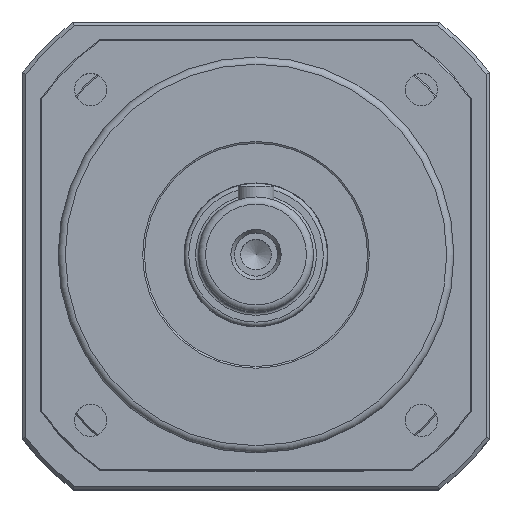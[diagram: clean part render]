
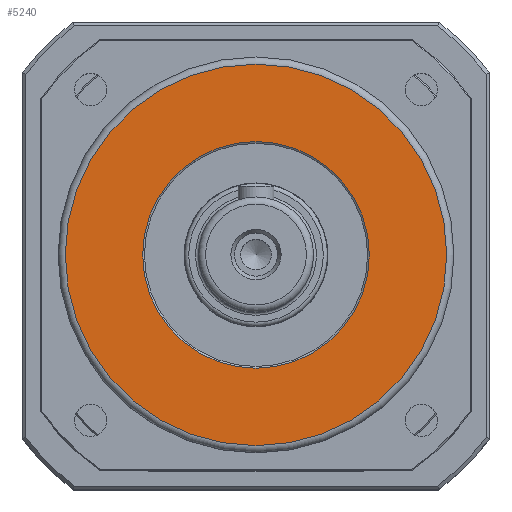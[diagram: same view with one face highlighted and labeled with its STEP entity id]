
A CAD part, top view. The second image highlights one B-rep face of the part: STEP entity #5240.
In plain terms, the highlighted planar face has unit normal (0, 0, 1).
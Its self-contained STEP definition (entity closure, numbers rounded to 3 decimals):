
#4101=CARTESIAN_POINT('',(31.5,0.,12.));
#4102=VERTEX_POINT('',#4101);
#4103=CARTESIAN_POINT('',(0.,0.0,12.));
#4104=DIRECTION('',(0.0,0.0,-1.0));
#4105=DIRECTION('',(1.0,0.0,0.0));
#4106=AXIS2_PLACEMENT_3D('',#4103,#4104,#4105);
#4107=CIRCLE('',#4106,31.5);
#4108=EDGE_CURVE('',#4102,#4102,#4107,.T.);
#4129=CARTESIAN_POINT('',(53.,0.,12.));
#4130=VERTEX_POINT('',#4129);
#4131=CARTESIAN_POINT('',(0.,0.0,12.));
#4132=DIRECTION('',(0.0,0.0,1.0));
#4133=DIRECTION('',(1.0,0.0,0.0));
#4134=AXIS2_PLACEMENT_3D('',#4131,#4132,#4133);
#4135=CIRCLE('',#4134,53.);
#4136=EDGE_CURVE('',#4130,#4130,#4135,.T.);
#5229=CARTESIAN_POINT('',(0.,0.0,12.));
#5230=DIRECTION('',(0.0,0.0,1.0));
#5231=DIRECTION('',(1.0,0.0,0.0));
#5232=AXIS2_PLACEMENT_3D('',#5229,#5230,#5231);
#5233=PLANE('',#5232);
#5234=ORIENTED_EDGE('',*,*,#4136,.T.);
#5235=EDGE_LOOP('',(#5234));
#5236=FACE_OUTER_BOUND('',#5235,.T.);
#5237=ORIENTED_EDGE('',*,*,#4108,.T.);
#5238=EDGE_LOOP('',(#5237));
#5239=FACE_BOUND('',#5238,.T.);
#5240=ADVANCED_FACE('',(#5236,#5239),#5233,.T.);
